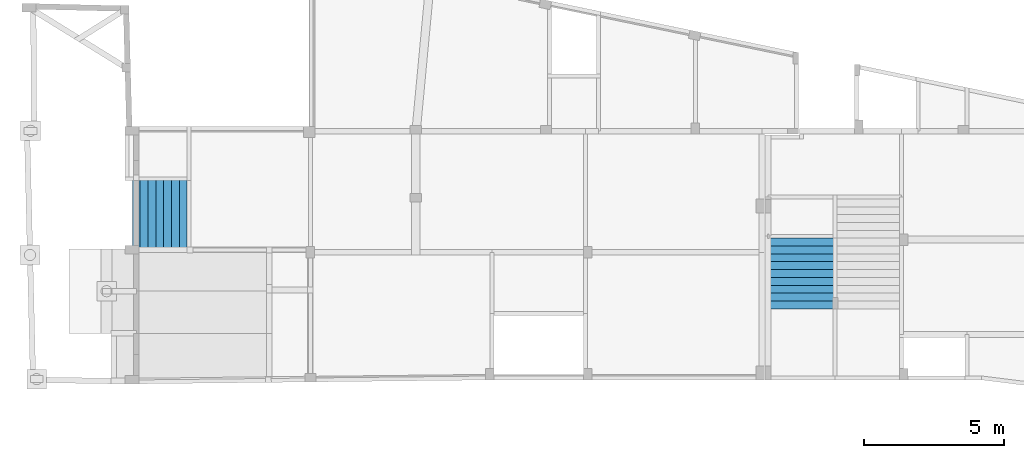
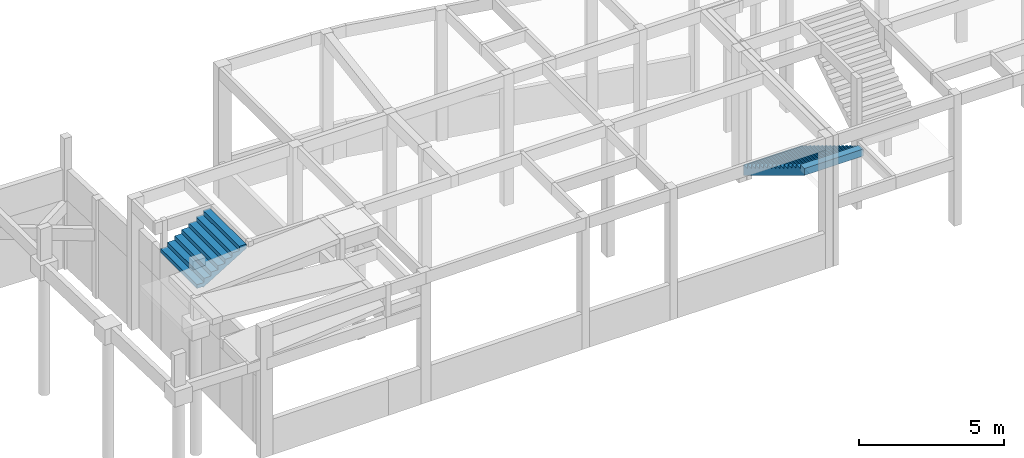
# One storey, part 7 of 8: 2 stair flights.
"""IFC4 building model written with IfcOpenShell, lengths in centimetres."""

from ifc_helpers import new_model, si_unit, derived_unit, frame, origin, origin_with_axes, place, context, project, spatial, faceted_brep, material, element, save


model = new_model("IFC4")

# Units and contexts
model_context = context("Model", 3, precision=1e-05, world=origin_with_axes(), identifier="Body")
ifc_project = project(units=[si_unit("LENGTHUNIT", "METRE", prefix="CENTI"), si_unit("VOLUMEUNIT", "CUBIC_METRE"), si_unit("AREAUNIT", "SQUARE_METRE"), si_unit("POWERUNIT", "WATT"), si_unit("LUMINOUSFLUXUNIT", "LUMEN"), si_unit("ELECTRICCURRENTUNIT", "AMPERE"), si_unit("PRESSUREUNIT", "PASCAL", prefix="KILO"), si_unit("MASSUNIT", "GRAM", prefix="KILO"), si_unit("PLANEANGLEUNIT", "RADIAN"), derived_unit("VOLUMETRICFLOWRATEUNIT", [(si_unit("LENGTHUNIT", "METRE"), 3), (si_unit("TIMEUNIT", "SECOND"), -1)])], contexts=[model_context])

# Site, building, storey
site_placement = place(None, origin_with_axes())
site = spatial("IfcSite", under=ifc_project, at=site_placement)
building_placement = place(site_placement, origin())
building = spatial("IfcBuilding", under=site, at=building_placement)
placement = place(building_placement, origin_with_axes())
storey_placement = place(placement, frame((0.0, 0.0, 550.0), z_axis=(0.0, 0.0, 1.0), x_axis=(1.0, 0.0, 0.0)))
storey = spatial("IfcBuildingStorey", under=building, at=storey_placement, Name="TÉRREO", CompositionType="ELEMENT", Elevation=550.0)

# Stair flights
ifc_material = material(Name="Concreto")
stair_flight_1_placement = place(storey_placement, frame((2786.1, -908.1, -280.7), z_axis=(0.0, 0.0, 1.0), x_axis=(1.0, 0.0, 0.0)))
element("IfcStairFlight", 1, at=stair_flight_1_placement, inside=storey, material=ifc_material, Name="LE1", NumberOfRisers=0, NumberOfTreads=0, context=model_context, shape_type="Brep", body=[
    faceted_brep([(117.5, -210.0, 0.0), (117.5, -182.0, 0.0), (-117.5, -182.0, 0.0), (-117.5, -210.0, 0.0), (117.5, -182.0, -46.24703456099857), (117.5, -210.0, -29.24703456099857), (-117.5, -210.0, -29.24703456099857), (-117.5, -182.0, -46.24703456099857), (117.5, -210.0, -29.24703456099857), (117.5, -210.0, 0.0), (-117.5, -210.0, 0.0), (-117.5, -210.0, -29.24703456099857), (117.5, -182.0, 0.0), (117.5, -182.0, -46.24703456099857), (-117.5, -182.0, -46.24703456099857), (-117.5, -182.0, 0.0), (-117.5, -182.0, -46.24703456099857), (-117.5, -210.0, -29.24703456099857), (-117.5, -210.0, 0.0), (-117.5, -182.0, 0.0), (117.5, -182.0, -46.24703456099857), (117.5, -182.0, 0.0), (117.5, -210.0, 0.0), (117.5, -210.0, -29.24703456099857), (117.5, -182.0, -17.0), (117.5, -154.0, -17.0), (-117.5, -154.0, -17.0), (-117.5, -182.0, -17.0), (117.5, -154.0, -63.24703456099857), (117.5, -182.0, -46.24703456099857), (-117.5, -182.0, -46.24703456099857), (-117.5, -154.0, -63.24703456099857), (117.5, -182.0, -46.24703456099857), (117.5, -182.0, -17.0), (-117.5, -182.0, -17.0), (-117.5, -182.0, -46.24703456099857), (117.5, -154.0, -17.0), (117.5, -154.0, -63.24703456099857), (-117.5, -154.0, -63.24703456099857), (-117.5, -154.0, -17.0), (-117.5, -154.0, -63.24703456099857), (-117.5, -182.0, -46.24703456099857), (-117.5, -182.0, -17.0), (-117.5, -154.0, -17.0), (117.5, -154.0, -63.24703456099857), (117.5, -154.0, -17.0), (117.5, -182.0, -17.0), (117.5, -182.0, -46.24703456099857), (117.5, -154.0, -34.0), (117.5, -126.0, -34.0), (-117.5, -126.0, -34.0), (-117.5, -154.0, -34.0), (117.5, -126.0, -80.24703456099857), (117.5, -154.0, -63.24703456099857), (-117.5, -154.0, -63.24703456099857), (-117.5, -126.0, -80.24703456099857), (117.5, -154.0, -63.24703456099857), (117.5, -154.0, -34.0), (-117.5, -154.0, -34.0), (-117.5, -154.0, -63.24703456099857), (117.5, -126.0, -34.0), (117.5, -126.0, -80.24703456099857), (-117.5, -126.0, -80.24703456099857), (-117.5, -126.0, -34.0), (-117.5, -126.0, -80.24703456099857), (-117.5, -154.0, -63.24703456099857), (-117.5, -154.0, -34.0), (-117.5, -126.0, -34.0), (117.5, -126.0, -80.24703456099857), (117.5, -126.0, -34.0), (117.5, -154.0, -34.0), (117.5, -154.0, -63.24703456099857), (117.5, -126.0, -51.0), (117.5, -98.0, -51.0), (-117.5, -98.0, -51.0), (-117.5, -126.0, -51.0), (117.5, -98.0, -97.24703456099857), (117.5, -126.0, -80.24703456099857), (-117.5, -126.0, -80.24703456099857), (-117.5, -98.0, -97.24703456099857), (117.5, -126.0, -80.24703456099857), (117.5, -126.0, -51.0), (-117.5, -126.0, -51.0), (-117.5, -126.0, -80.24703456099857), (117.5, -98.0, -51.0), (117.5, -98.0, -97.24703456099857), (-117.5, -98.0, -97.24703456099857), (-117.5, -98.0, -51.0), (-117.5, -98.0, -97.24703456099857), (-117.5, -126.0, -80.24703456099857), (-117.5, -126.0, -51.0), (-117.5, -98.0, -51.0), (117.5, -98.0, -97.24703456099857), (117.5, -98.0, -51.0), (117.5, -126.0, -51.0), (117.5, -126.0, -80.24703456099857), (117.5, -98.0, -68.0), (117.5, -70.0, -68.0), (-117.5, -70.0, -68.0), (-117.5, -98.0, -68.0), (117.5, -70.0, -114.24703456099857), (117.5, -98.0, -97.24703456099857), (-117.5, -98.0, -97.24703456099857), (-117.5, -70.0, -114.24703456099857), (117.5, -98.0, -97.24703456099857), (117.5, -98.0, -68.0), (-117.5, -98.0, -68.0), (-117.5, -98.0, -97.24703456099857), (117.5, -70.0, -68.0), (117.5, -70.0, -114.24703456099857), (-117.5, -70.0, -114.24703456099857), (-117.5, -70.0, -68.0), (-117.5, -70.0, -114.24703456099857), (-117.5, -98.0, -97.24703456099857), (-117.5, -98.0, -68.0), (-117.5, -70.0, -68.0), (117.5, -70.0, -114.24703456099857), (117.5, -70.0, -68.0), (117.5, -98.0, -68.0), (117.5, -98.0, -97.24703456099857), (117.5, -70.0, -85.0), (117.5, -42.0, -85.0), (-117.5, -42.0, -85.0), (-117.5, -70.0, -85.0), (117.5, -42.0, -131.24703456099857), (117.5, -70.0, -114.24703456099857), (-117.5, -70.0, -114.24703456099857), (-117.5, -42.0, -131.24703456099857), (117.5, -70.0, -114.24703456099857), (117.5, -70.0, -85.0), (-117.5, -70.0, -85.0), (-117.5, -70.0, -114.24703456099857), (117.5, -42.0, -85.0), (117.5, -42.0, -131.24703456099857), (-117.5, -42.0, -131.24703456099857), (-117.5, -42.0, -85.0), (-117.5, -42.0, -131.24703456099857), (-117.5, -70.0, -114.24703456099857), (-117.5, -70.0, -85.0), (-117.5, -42.0, -85.0), (117.5, -42.0, -131.24703456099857), (117.5, -42.0, -85.0), (117.5, -70.0, -85.0), (117.5, -70.0, -114.24703456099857), (117.5, -42.0, -102.0), (117.5, -14.0, -102.0), (-117.5, -14.0, -102.0), (-117.5, -42.0, -102.0), (117.5, -14.0, -148.24703456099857), (117.5, -42.0, -131.24703456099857), (-117.5, -42.0, -131.24703456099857), (-117.5, -14.0, -148.24703456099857), (117.5, -42.0, -131.24703456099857), (117.5, -42.0, -102.0), (-117.5, -42.0, -102.0), (-117.5, -42.0, -131.24703456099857), (117.5, -14.0, -102.0), (117.5, -14.0, -148.24703456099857), (-117.5, -14.0, -148.24703456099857), (-117.5, -14.0, -102.0), (-117.5, -14.0, -148.24703456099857), (-117.5, -42.0, -131.24703456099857), (-117.5, -42.0, -102.0), (-117.5, -14.0, -102.0), (117.5, -14.0, -148.24703456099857), (117.5, -14.0, -102.0), (117.5, -42.0, -102.0), (117.5, -42.0, -131.24703456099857), (117.5, -14.0, -119.0), (117.5, 14.0, -119.0), (-117.5, 14.0, -119.0), (-117.5, -14.0, -119.0), (117.5, 14.0, -165.24703456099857), (117.5, -14.0, -148.24703456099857), (-117.5, -14.0, -148.24703456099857), (-117.5, 14.0, -165.24703456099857), (117.5, -14.0, -148.24703456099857), (117.5, -14.0, -119.0), (-117.5, -14.0, -119.0), (-117.5, -14.0, -148.24703456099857), (117.5, 14.0, -119.0), (117.5, 14.0, -165.24703456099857), (-117.5, 14.0, -165.24703456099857), (-117.5, 14.0, -119.0), (-117.5, 14.0, -165.24703456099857), (-117.5, -14.0, -148.24703456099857), (-117.5, -14.0, -119.0), (-117.5, 14.0, -119.0), (117.5, 14.0, -165.24703456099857), (117.5, 14.0, -119.0), (117.5, -14.0, -119.0), (117.5, -14.0, -148.24703456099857), (117.5, 14.0, -136.0), (117.5, 42.0, -136.0), (-117.5, 42.0, -136.0), (-117.5, 14.0, -136.0), (117.5, 42.0, -182.24703456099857), (117.5, 14.0, -165.24703456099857), (-117.5, 14.0, -165.24703456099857), (-117.5, 42.0, -182.24703456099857), (117.5, 14.0, -165.24703456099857), (117.5, 14.0, -136.0), (-117.5, 14.0, -136.0), (-117.5, 14.0, -165.24703456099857), (117.5, 42.0, -136.0), (117.5, 42.0, -182.24703456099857), (-117.5, 42.0, -182.24703456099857), (-117.5, 42.0, -136.0), (-117.5, 42.0, -182.24703456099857), (-117.5, 14.0, -165.24703456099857), (-117.5, 14.0, -136.0), (-117.5, 42.0, -136.0), (117.5, 42.0, -182.24703456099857), (117.5, 42.0, -136.0), (117.5, 14.0, -136.0), (117.5, 14.0, -165.24703456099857), (117.5, 42.0, -153.0), (117.5, 70.0, -153.0), (-117.5, 70.0, -153.0), (-117.5, 42.0, -153.0), (117.5, 70.0, -199.24703456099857), (117.5, 42.0, -182.24703456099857), (-117.5, 42.0, -182.24703456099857), (-117.5, 70.0, -199.24703456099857), (117.5, 42.0, -182.24703456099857), (117.5, 42.0, -153.0), (-117.5, 42.0, -153.0), (-117.5, 42.0, -182.24703456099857), (117.5, 70.0, -153.0), (117.5, 70.0, -199.24703456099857), (-117.5, 70.0, -199.24703456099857), (-117.5, 70.0, -153.0), (-117.5, 70.0, -199.24703456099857), (-117.5, 42.0, -182.24703456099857), (-117.5, 42.0, -153.0), (-117.5, 70.0, -153.0), (117.5, 70.0, -199.24703456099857), (117.5, 70.0, -153.0), (117.5, 42.0, -153.0), (117.5, 42.0, -182.24703456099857), (117.5, 70.0, -170.0), (117.5, 98.0, -170.0), (-117.5, 98.0, -170.0), (-117.5, 70.0, -170.0), (117.5, 98.0, -216.24703456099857), (117.5, 70.0, -199.24703456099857), (-117.5, 70.0, -199.24703456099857), (-117.5, 98.0, -216.24703456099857), (117.5, 70.0, -199.24703456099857), (117.5, 70.0, -170.0), (-117.5, 70.0, -170.0), (-117.5, 70.0, -199.24703456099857), (117.5, 98.0, -170.0), (117.5, 98.0, -216.24703456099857), (-117.5, 98.0, -216.24703456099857), (-117.5, 98.0, -170.0), (-117.5, 98.0, -216.24703456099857), (-117.5, 70.0, -199.24703456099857), (-117.5, 70.0, -170.0), (-117.5, 98.0, -170.0), (117.5, 98.0, -216.24703456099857), (117.5, 98.0, -170.0), (117.5, 70.0, -170.0), (117.5, 70.0, -199.24703456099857), (117.5, 98.0, -187.0), (117.5, 126.0, -187.0), (-117.5, 126.0, -187.0), (-117.5, 98.0, -187.0), (117.5, 126.0, -233.24703456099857), (117.5, 98.0, -216.24703456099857), (-117.5, 98.0, -216.24703456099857), (-117.5, 126.0, -233.24703456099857), (117.5, 98.0, -216.24703456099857), (117.5, 98.0, -187.0), (-117.5, 98.0, -187.0), (-117.5, 98.0, -216.24703456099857), (117.5, 126.0, -187.0), (117.5, 126.0, -233.24703456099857), (-117.5, 126.0, -233.24703456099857), (-117.5, 126.0, -187.0), (-117.5, 126.0, -233.24703456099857), (-117.5, 98.0, -216.24703456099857), (-117.5, 98.0, -187.0), (-117.5, 126.0, -187.0), (117.5, 126.0, -233.24703456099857), (117.5, 126.0, -187.0), (117.5, 98.0, -187.0), (117.5, 98.0, -216.24703456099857), (117.5, 126.0, -204.0), (117.5, 154.0, -204.0), (-117.5, 154.0, -204.0), (-117.5, 126.0, -204.0), (117.5, 154.0, -250.24703456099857), (117.5, 126.0, -233.24703456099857), (-117.5, 126.0, -233.24703456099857), (-117.5, 154.0, -250.24703456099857), (117.5, 126.0, -233.24703456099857), (117.5, 126.0, -204.0), (-117.5, 126.0, -204.0), (-117.5, 126.0, -233.24703456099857), (117.5, 154.0, -204.0), (117.5, 154.0, -250.24703456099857), (-117.5, 154.0, -250.24703456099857), (-117.5, 154.0, -204.0), (-117.5, 154.0, -250.24703456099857), (-117.5, 126.0, -233.24703456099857), (-117.5, 126.0, -204.0), (-117.5, 154.0, -204.0), (117.5, 154.0, -250.24703456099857), (117.5, 154.0, -204.0), (117.5, 126.0, -204.0), (117.5, 126.0, -233.24703456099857), (117.5, 154.0, -221.0), (117.5, 182.0, -221.0), (-117.5, 182.0, -221.0), (-117.5, 154.0, -221.0), (117.5, 182.0, -267.24703456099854), (117.5, 154.0, -250.24703456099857), (-117.5, 154.0, -250.24703456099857), (-117.5, 182.0, -267.24703456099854), (117.5, 154.0, -250.24703456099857), (117.5, 154.0, -221.0), (-117.5, 154.0, -221.0), (-117.5, 154.0, -250.24703456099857), (117.5, 182.0, -221.0), (117.5, 182.0, -267.24703456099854), (-117.5, 182.0, -267.24703456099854), (-117.5, 182.0, -221.0), (-117.5, 182.0, -267.24703456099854), (-117.5, 154.0, -250.24703456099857), (-117.5, 154.0, -221.0), (-117.5, 182.0, -221.0), (117.5, 182.0, -267.24703456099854), (117.5, 182.0, -221.0), (117.5, 154.0, -221.0), (117.5, 154.0, -250.24703456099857), (117.5, 182.0, -238.0), (117.5, 210.0, -238.0), (-117.5, 210.0, -238.0), (-117.5, 182.0, -238.0), (117.5, 210.0, -284.2470345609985), (117.5, 182.0, -267.24703456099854), (-117.5, 182.0, -267.24703456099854), (-117.5, 210.0, -284.2470345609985), (117.5, 182.0, -267.24703456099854), (117.5, 182.0, -238.0), (-117.5, 182.0, -238.0), (-117.5, 182.0, -267.24703456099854), (117.5, 210.0, -238.0), (117.5, 210.0, -284.2470345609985), (-117.5, 210.0, -284.2470345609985), (-117.5, 210.0, -238.0), (-117.5, 210.0, -284.2470345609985), (-117.5, 182.0, -267.24703456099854), (-117.5, 182.0, -238.0), (-117.5, 210.0, -238.0), (117.5, 210.0, -284.2470345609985), (117.5, 210.0, -238.0), (117.5, 182.0, -238.0), (117.5, 182.0, -267.24703456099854)], [[[0, 1, 2, 3]], [[4, 5, 6, 7]], [[8, 9, 10, 11]], [[12, 13, 14, 15]], [[16, 17, 18, 19]], [[20, 21, 22, 23]], [[24, 25, 26, 27]], [[28, 29, 30, 31]], [[32, 33, 34, 35]], [[36, 37, 38, 39]], [[40, 41, 42, 43]], [[44, 45, 46, 47]], [[48, 49, 50, 51]], [[52, 53, 54, 55]], [[56, 57, 58, 59]], [[60, 61, 62, 63]], [[64, 65, 66, 67]], [[68, 69, 70, 71]], [[72, 73, 74, 75]], [[76, 77, 78, 79]], [[80, 81, 82, 83]], [[84, 85, 86, 87]], [[88, 89, 90, 91]], [[92, 93, 94, 95]], [[96, 97, 98, 99]], [[100, 101, 102, 103]], [[104, 105, 106, 107]], [[108, 109, 110, 111]], [[112, 113, 114, 115]], [[116, 117, 118, 119]], [[120, 121, 122, 123]], [[124, 125, 126, 127]], [[128, 129, 130, 131]], [[132, 133, 134, 135]], [[136, 137, 138, 139]], [[140, 141, 142, 143]], [[144, 145, 146, 147]], [[148, 149, 150, 151]], [[152, 153, 154, 155]], [[156, 157, 158, 159]], [[160, 161, 162, 163]], [[164, 165, 166, 167]], [[168, 169, 170, 171]], [[172, 173, 174, 175]], [[176, 177, 178, 179]], [[180, 181, 182, 183]], [[184, 185, 186, 187]], [[188, 189, 190, 191]], [[192, 193, 194, 195]], [[196, 197, 198, 199]], [[200, 201, 202, 203]], [[204, 205, 206, 207]], [[208, 209, 210, 211]], [[212, 213, 214, 215]], [[216, 217, 218, 219]], [[220, 221, 222, 223]], [[224, 225, 226, 227]], [[228, 229, 230, 231]], [[232, 233, 234, 235]], [[236, 237, 238, 239]], [[240, 241, 242, 243]], [[244, 245, 246, 247]], [[248, 249, 250, 251]], [[252, 253, 254, 255]], [[256, 257, 258, 259]], [[260, 261, 262, 263]], [[264, 265, 266, 267]], [[268, 269, 270, 271]], [[272, 273, 274, 275]], [[276, 277, 278, 279]], [[280, 281, 282, 283]], [[284, 285, 286, 287]], [[288, 289, 290, 291]], [[292, 293, 294, 295]], [[296, 297, 298, 299]], [[300, 301, 302, 303]], [[304, 305, 306, 307]], [[308, 309, 310, 311]], [[312, 313, 314, 315]], [[316, 317, 318, 319]], [[320, 321, 322, 323]], [[324, 325, 326, 327]], [[328, 329, 330, 331]], [[332, 333, 334, 335]], [[336, 337, 338, 339]], [[340, 341, 342, 343]], [[344, 345, 346, 347]], [[348, 349, 350, 351]], [[352, 353, 354, 355]], [[356, 357, 358, 359]]]),
])
stair_flight_2_placement = place(storey_placement, frame((491.5, -751.35, -17.0), z_axis=(0.0, 0.0, 1.0), x_axis=(1.0, 0.0, 0.0)))
element("IfcStairFlight", 2, at=stair_flight_2_placement, inside=storey, material=ifc_material, Name="LE9", NumberOfRisers=0, NumberOfTreads=0, context=model_context, shape_type="Brep", body=[
    faceted_brep([(98.0, 125.5, 0.0), (70.0, 125.5, 0.0), (70.0, -125.5, 0.0), (98.0, -125.5, 0.0), (70.0, 125.5, -34.54822073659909), (98.0, 125.5, -17.54822073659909), (98.0, -125.5, -17.54822073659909), (70.0, -125.5, -34.54822073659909), (98.0, 125.5, -17.54822073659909), (98.0, 125.5, 0.0), (98.0, -125.5, 0.0), (98.0, -125.5, -17.54822073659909), (70.0, 125.5, 0.0), (70.0, 125.5, -34.54822073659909), (70.0, -125.5, -34.54822073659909), (70.0, -125.5, 0.0), (70.0, -125.5, -34.54822073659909), (98.0, -125.5, -17.54822073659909), (98.0, -125.5, 0.0), (70.0, -125.5, 0.0), (70.0, 125.5, -34.54822073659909), (70.0, 125.5, 0.0), (98.0, 125.5, 0.0), (98.0, 125.5, -17.54822073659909), (70.0, 125.5, -17.0), (42.0, 125.5, -17.0), (42.0, -125.5, -17.0), (70.0, -125.5, -17.0), (42.0, 125.5, -51.54822073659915), (70.0, 125.5, -34.54822073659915), (70.0, -125.5, -34.54822073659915), (42.0, -125.5, -51.54822073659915), (70.0, 125.5, -34.54822073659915), (70.0, 125.5, -17.0), (70.0, -125.5, -17.0), (70.0, -125.5, -34.54822073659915), (42.0, 125.5, -17.0), (42.0, 125.5, -51.54822073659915), (42.0, -125.5, -51.54822073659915), (42.0, -125.5, -17.0), (42.0, -125.5, -51.54822073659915), (70.0, -125.5, -34.54822073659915), (70.0, -125.5, -17.0), (42.0, -125.5, -17.0), (42.0, 125.5, -51.54822073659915), (42.0, 125.5, -17.0), (70.0, 125.5, -17.0), (70.0, 125.5, -34.54822073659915), (42.0, 125.5, -34.0), (14.0, 125.5, -34.0), (14.0, -125.5, -34.0), (42.0, -125.5, -34.0), (14.0, 125.5, -68.54822073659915), (42.0, 125.5, -51.54822073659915), (42.0, -125.5, -51.54822073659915), (14.0, -125.5, -68.54822073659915), (42.0, 125.5, -51.54822073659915), (42.0, 125.5, -34.0), (42.0, -125.5, -34.0), (42.0, -125.5, -51.54822073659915), (14.0, 125.5, -34.0), (14.0, 125.5, -68.54822073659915), (14.0, -125.5, -68.54822073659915), (14.0, -125.5, -34.0), (14.0, -125.5, -68.54822073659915), (42.0, -125.5, -51.54822073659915), (42.0, -125.5, -34.0), (14.0, -125.5, -34.0), (14.0, 125.5, -68.54822073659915), (14.0, 125.5, -34.0), (42.0, 125.5, -34.0), (42.0, 125.5, -51.54822073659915), (14.0, 125.5, -51.0), (-14.0, 125.5, -51.0), (-14.0, -125.5, -51.0), (14.0, -125.5, -51.0), (-14.0, 125.5, -85.54822073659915), (14.0, 125.5, -68.54822073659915), (14.0, -125.5, -68.54822073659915), (-14.0, -125.5, -85.54822073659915), (14.0, 125.5, -68.54822073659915), (14.0, 125.5, -51.0), (14.0, -125.5, -51.0), (14.0, -125.5, -68.54822073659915), (-14.0, 125.5, -51.0), (-14.0, 125.5, -85.54822073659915), (-14.0, -125.5, -85.54822073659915), (-14.0, -125.5, -51.0), (-14.0, -125.5, -85.54822073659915), (14.0, -125.5, -68.54822073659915), (14.0, -125.5, -51.0), (-14.0, -125.5, -51.0), (-14.0, 125.5, -85.54822073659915), (-14.0, 125.5, -51.0), (14.0, 125.5, -51.0), (14.0, 125.5, -68.54822073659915), (-14.0, 125.5, -68.0), (-42.0, 125.5, -68.0), (-42.0, -125.5, -68.0), (-14.0, -125.5, -68.0), (-42.0, 125.5, -102.54822073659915), (-14.0, 125.5, -85.54822073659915), (-14.0, -125.5, -85.54822073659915), (-42.0, -125.5, -102.54822073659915), (-14.0, 125.5, -85.54822073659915), (-14.0, 125.5, -68.0), (-14.0, -125.5, -68.0), (-14.0, -125.5, -85.54822073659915), (-42.0, 125.5, -68.0), (-42.0, 125.5, -102.54822073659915), (-42.0, -125.5, -102.54822073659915), (-42.0, -125.5, -68.0), (-42.0, -125.5, -102.54822073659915), (-14.0, -125.5, -85.54822073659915), (-14.0, -125.5, -68.0), (-42.0, -125.5, -68.0), (-42.0, 125.5, -102.54822073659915), (-42.0, 125.5, -68.0), (-14.0, 125.5, -68.0), (-14.0, 125.5, -85.54822073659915), (-42.0, 125.5, -85.0), (-70.0, 125.5, -85.0), (-70.0, -125.5, -85.0), (-42.0, -125.5, -85.0), (-70.0, 125.5, -119.54822073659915), (-42.0, 125.5, -102.54822073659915), (-42.0, -125.5, -102.54822073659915), (-70.0, -125.5, -119.54822073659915), (-42.0, 125.5, -102.54822073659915), (-42.0, 125.5, -85.0), (-42.0, -125.5, -85.0), (-42.0, -125.5, -102.54822073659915), (-70.0, 125.5, -85.0), (-70.0, 125.5, -119.54822073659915), (-70.0, -125.5, -119.54822073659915), (-70.0, -125.5, -85.0), (-70.0, -125.5, -119.54822073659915), (-42.0, -125.5, -102.54822073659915), (-42.0, -125.5, -85.0), (-70.0, -125.5, -85.0), (-70.0, 125.5, -119.54822073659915), (-70.0, 125.5, -85.0), (-42.0, 125.5, -85.0), (-42.0, 125.5, -102.54822073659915), (-70.0, 125.5, -102.0), (-73.75, 125.5, -102.0), (-73.75, -125.5, -102.0), (-70.0, -125.5, -102.0), (-73.75, 125.5, -121.82500645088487), (-70.0, 125.5, -119.54822073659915), (-70.0, -125.5, -119.54822073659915), (-73.75, -125.5, -121.82500645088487), (-70.0, 125.5, -119.54822073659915), (-70.0, 125.5, -102.0), (-70.0, -125.5, -102.0), (-70.0, -125.5, -119.54822073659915), (-73.75, 125.5, -102.0), (-73.75, 125.5, -121.82500645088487), (-73.75, -125.5, -121.82500645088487), (-73.75, -125.5, -102.0), (-73.75, -125.5, -121.82500645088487), (-70.0, -125.5, -119.54822073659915), (-70.0, -125.5, -102.0), (-73.75, -125.5, -102.0), (-73.75, 125.5, -121.82500645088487), (-73.75, 125.5, -102.0), (-70.0, 125.5, -102.0), (-70.0, 125.5, -119.54822073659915), (-73.75, 125.5, -102.0), (-98.0, 125.5, -102.0), (-98.0, -125.5, -102.0), (-73.75, -125.5, -102.0), (-98.0, 125.5, -118.0), (-73.75, 125.5, -118.0), (-73.75, -125.5, -118.0), (-98.0, -125.5, -118.0), (-73.75, 125.5, -118.0), (-73.75, 125.5, -102.0), (-73.75, -125.5, -102.0), (-73.75, -125.5, -118.0), (-98.0, 125.5, -102.0), (-98.0, 125.5, -118.0), (-98.0, -125.5, -118.0), (-98.0, -125.5, -102.0), (-98.0, -125.5, -118.0), (-73.75, -125.5, -118.0), (-73.75, -125.5, -102.0), (-98.0, -125.5, -102.0), (-98.0, 125.5, -118.0), (-98.0, 125.5, -102.0), (-73.75, 125.5, -102.0), (-73.75, 125.5, -118.0)], [[[0, 1, 2, 3]], [[4, 5, 6, 7]], [[8, 9, 10, 11]], [[12, 13, 14, 15]], [[16, 17, 18, 19]], [[20, 21, 22, 23]], [[24, 25, 26, 27]], [[28, 29, 30, 31]], [[32, 33, 34, 35]], [[36, 37, 38, 39]], [[40, 41, 42, 43]], [[44, 45, 46, 47]], [[48, 49, 50, 51]], [[52, 53, 54, 55]], [[56, 57, 58, 59]], [[60, 61, 62, 63]], [[64, 65, 66, 67]], [[68, 69, 70, 71]], [[72, 73, 74, 75]], [[76, 77, 78, 79]], [[80, 81, 82, 83]], [[84, 85, 86, 87]], [[88, 89, 90, 91]], [[92, 93, 94, 95]], [[96, 97, 98, 99]], [[100, 101, 102, 103]], [[104, 105, 106, 107]], [[108, 109, 110, 111]], [[112, 113, 114, 115]], [[116, 117, 118, 119]], [[120, 121, 122, 123]], [[124, 125, 126, 127]], [[128, 129, 130, 131]], [[132, 133, 134, 135]], [[136, 137, 138, 139]], [[140, 141, 142, 143]], [[144, 145, 146, 147]], [[148, 149, 150, 151]], [[152, 153, 154, 155]], [[156, 157, 158, 159]], [[160, 161, 162, 163]], [[164, 165, 166, 167]], [[168, 169, 170, 171]], [[172, 173, 174, 175]], [[176, 177, 178, 179]], [[180, 181, 182, 183]], [[184, 185, 186, 187]], [[188, 189, 190, 191]]]),
])

save(model, "model.ifc")
